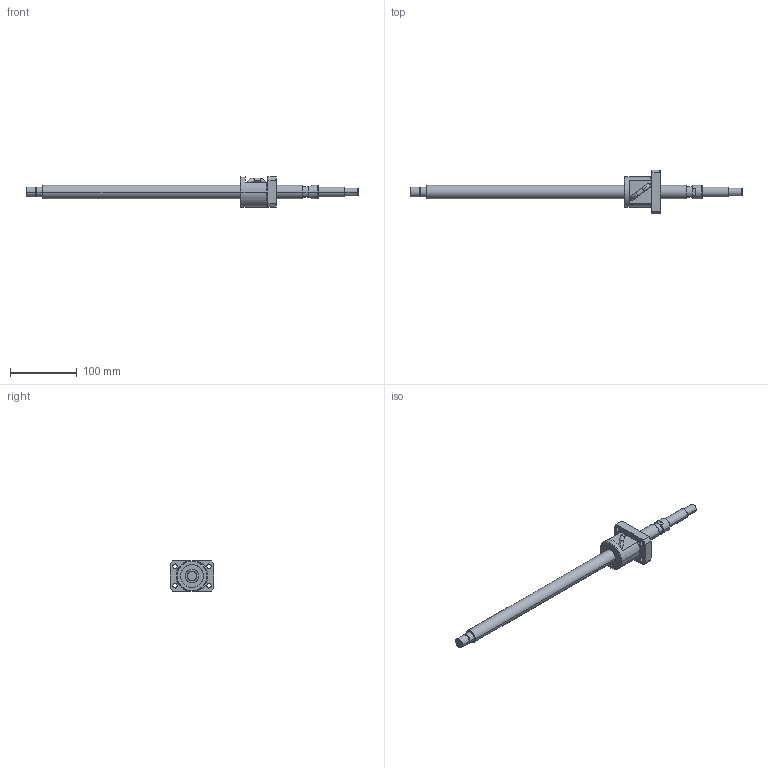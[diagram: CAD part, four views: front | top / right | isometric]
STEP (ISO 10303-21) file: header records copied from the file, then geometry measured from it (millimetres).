
FILE_DESCRIPTION (( 'STEP AP214' ), '1' );
FILE_NAME ('BS2010A-3D.STEP', '2014-03-05T14:52:13', ( '' ), ( '' ), 'SwSTEP 2.0', 'SolidWorks 2012', '' );
FILE_SCHEMA (( 'AUTOMOTIVE_DESIGN' ));
Length unit declared in the file: millimetre
Products named in the file (3): BS2010Aナット; BS2010AŽ²; BS2010A-3D
Assembly tree (2 placements, depth 2):
  BS2010A-3D
    BS2010AŽ²
    BS2010Aナット
Bounding box: 499 x 66 x 46 mm (x, y, z)
Volume: 218846.1 mm3; surface area: 51818.1 mm2
Topology: 2 solids, 2 shells, 155 faces, 399 edges, 257 vertices
Faces by surface type: cylinder 73, plane 42, cone 34, torus 4, bspline 2
Entity records: 6056 total; most frequent: CARTESIAN_POINT 2063, DIRECTION 824, ORIENTED_EDGE 794, EDGE_CURVE 397, AXIS2_PLACEMENT_3D 344, VERTEX_POINT 257, CIRCLE 186, EDGE_LOOP 186
